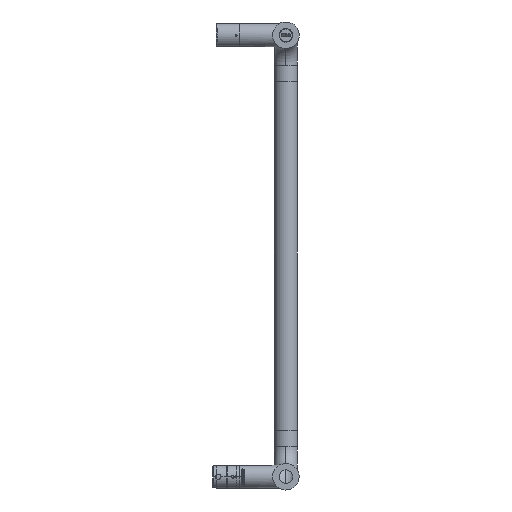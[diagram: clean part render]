
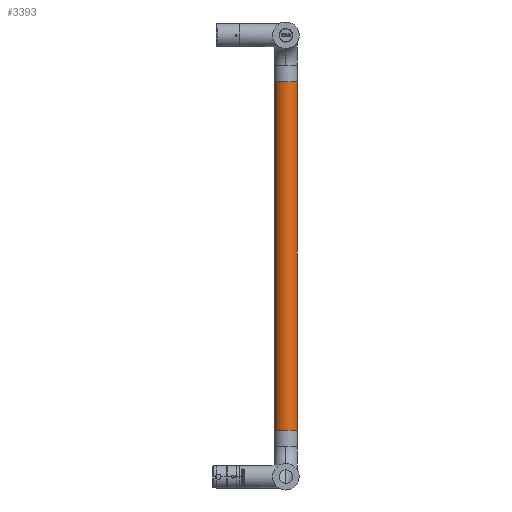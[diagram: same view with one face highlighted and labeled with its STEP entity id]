
A CAD part, front view. The second image highlights one B-rep face of the part: STEP entity #3393.
In plain terms, the highlighted cylindrical face has radius 17.5 mm (diameter 35 mm), a partial arc.
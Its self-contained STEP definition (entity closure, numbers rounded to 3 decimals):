
#164 = AXIS2_PLACEMENT_3D ( 'NONE', #6107, #2385, #9073 ) ;
#489 = EDGE_CURVE ( 'NONE', #3176, #8048, #5790, .T. ) ;
#1128 = CARTESIAN_POINT ( 'NONE',  ( 0., 0., -262.5 ) ) ;
#1163 = DIRECTION ( 'NONE',  ( 0., 0., -1. ) ) ;
#1667 = AXIS2_PLACEMENT_3D ( 'NONE', #4554, #3206, #7533 ) ;
#1712 = ORIENTED_EDGE ( 'NONE', *, *, #6015, .T. ) ;
#1878 = LINE ( 'NONE', #7723, #7061 ) ;
#2385 = DIRECTION ( 'NONE',  ( 0., 0., -1. ) ) ;
#2557 = EDGE_LOOP ( 'NONE', ( #6776, #1712, #5335, #4133 ) ) ;
#3176 = VERTEX_POINT ( 'NONE', #4237 ) ;
#3206 = DIRECTION ( 'NONE',  ( 0., 0., 1. ) ) ;
#3393 = ADVANCED_FACE ( 'NONE', ( #3804 ), #8938, .T. ) ;
#3506 = CARTESIAN_POINT ( 'NONE',  ( 17.5, 0., 262.5 ) ) ;
#3605 = CARTESIAN_POINT ( 'NONE',  ( 17.5, 0., -262.5 ) ) ;
#3804 = FACE_OUTER_BOUND ( 'NONE', #2557, .T. ) ;
#4066 = VECTOR ( 'NONE', #5721, 1000. ) ;
#4133 = ORIENTED_EDGE ( 'NONE', *, *, #8120, .F. ) ;
#4237 = CARTESIAN_POINT ( 'NONE',  ( 17.5, 0., 262.5 ) ) ;
#4554 = CARTESIAN_POINT ( 'NONE',  ( 0., 0., 262.5 ) ) ;
#5335 = ORIENTED_EDGE ( 'NONE', *, *, #6315, .T. ) ;
#5473 = CARTESIAN_POINT ( 'NONE',  ( -17.5, 0., -262.5 ) ) ;
#5559 = CARTESIAN_POINT ( 'NONE',  ( -17.5, 0., 262.5 ) ) ;
#5721 = DIRECTION ( 'NONE',  ( 0., 0., -1. ) ) ;
#5790 = CIRCLE ( 'NONE', #1667, 17.5 ) ;
#6015 = EDGE_CURVE ( 'NONE', #3176, #8924, #7882, .T. ) ;
#6107 = CARTESIAN_POINT ( 'NONE',  ( 0., 0., 262.5 ) ) ;
#6315 = EDGE_CURVE ( 'NONE', #8924, #6336, #6524, .T. ) ;
#6336 = VERTEX_POINT ( 'NONE', #5473 ) ;
#6524 = CIRCLE ( 'NONE', #9278, 17.5 ) ;
#6776 = ORIENTED_EDGE ( 'NONE', *, *, #489, .F. ) ;
#6817 = DIRECTION ( 'NONE',  ( 1., 0., 0. ) ) ;
#7061 = VECTOR ( 'NONE', #1163, 1000. ) ;
#7533 = DIRECTION ( 'NONE',  ( 1., 0., 0. ) ) ;
#7541 = DIRECTION ( 'NONE',  ( 0., 0., 1. ) ) ;
#7723 = CARTESIAN_POINT ( 'NONE',  ( -17.5, 0., 262.5 ) ) ;
#7882 = LINE ( 'NONE', #3506, #4066 ) ;
#8048 = VERTEX_POINT ( 'NONE', #5559 ) ;
#8120 = EDGE_CURVE ( 'NONE', #8048, #6336, #1878, .T. ) ;
#8924 = VERTEX_POINT ( 'NONE', #3605 ) ;
#8938 = CYLINDRICAL_SURFACE ( 'NONE', #164, 17.5 ) ;
#9073 = DIRECTION ( 'NONE',  ( -1., 0., 0. ) ) ;
#9278 = AXIS2_PLACEMENT_3D ( 'NONE', #1128, #7541, #6817 ) ;
